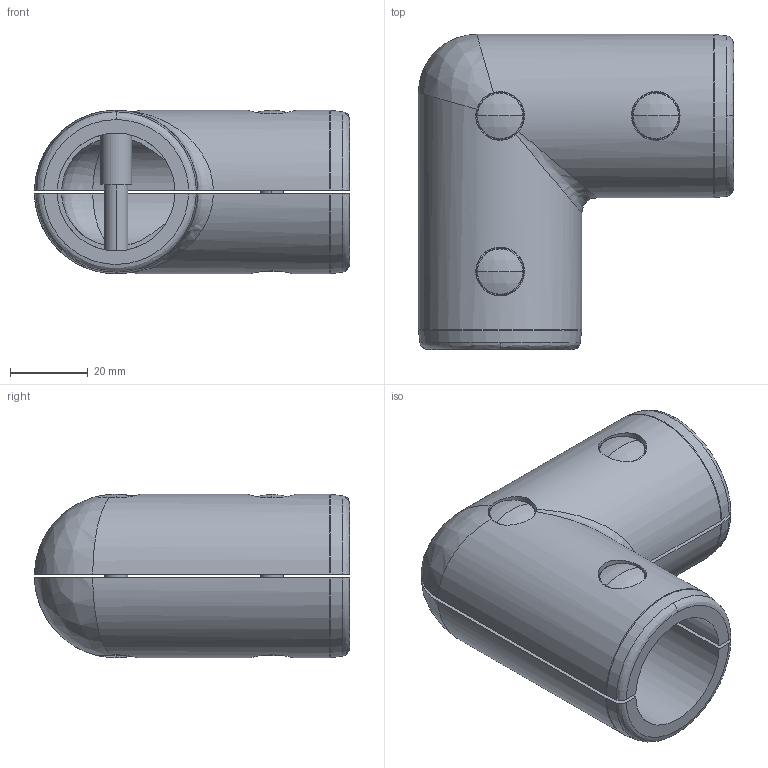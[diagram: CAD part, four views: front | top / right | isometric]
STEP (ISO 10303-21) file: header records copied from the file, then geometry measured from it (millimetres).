
FILE_DESCRIPTION (( 'STEP AP214' ), '1' );
FILE_NAME ('31000410023.STEP', '2024-09-02T09:41:07', ( '' ), ( '' ), 'SwSTEP 2.0', 'SolidWorks 2016', '' );
FILE_SCHEMA (( 'AUTOMOTIVE_DESIGN' ));
Length unit declared in the file: millimetre
Products named in the file (5): 1888_Schale 2; 31000410023; DIN 6912  (Regelgewinde) M6 x 30_2; 1888_Schale 1; 635179_H³lsenmutter_8
Assembly tree (8 placements, depth 2):
  31000410023
    1888_Schale 1
    1888_Schale 2
    635179_H³lsenmutter_8  x3
    DIN 6912  (Regelgewinde) M6 x 30_2  x3
Bounding box: 80.99 x 80.99 x 42 mm (x, y, z)
Volume: 82426.3 mm3; surface area: 36260.3 mm2
Topology: 8 solids, 8 shells, 189 faces, 488 edges, 317 vertices
Faces by surface type: cylinder 72, plane 51, cone 34, bspline 26, sphere 6
Entity records: 9917 total; most frequent: CARTESIAN_POINT 5758, ORIENTED_EDGE 632, DIRECTION 456, EDGE_CURVE 316, VERTEX_POINT 215, AXIS2_PLACEMENT_3D 183, B_SPLINE_CURVE_WITH_KNOTS 145, EDGE_LOOP 133
